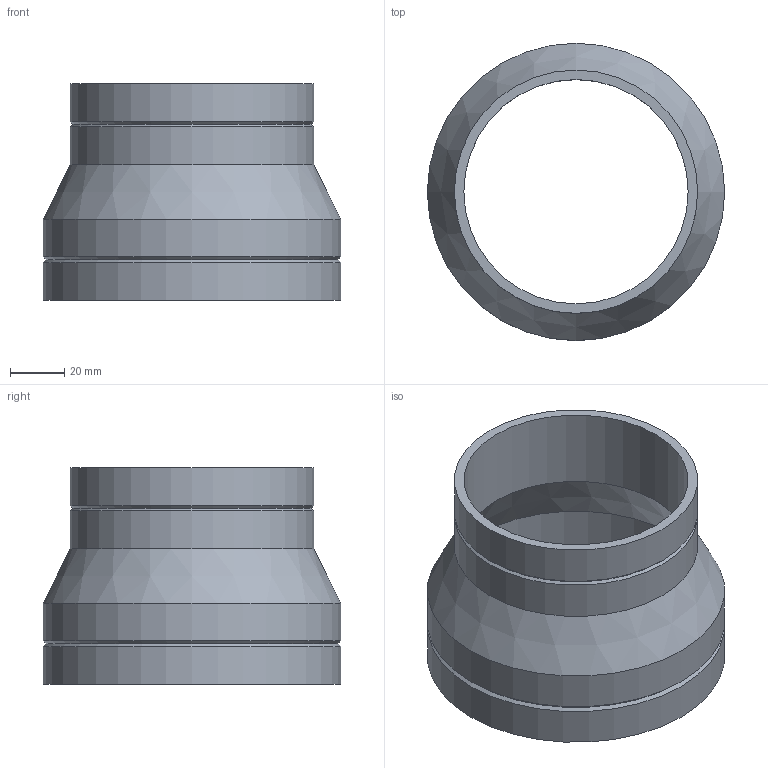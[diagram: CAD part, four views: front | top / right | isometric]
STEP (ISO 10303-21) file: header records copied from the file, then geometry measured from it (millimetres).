
FILE_DESCRIPTION(/* description */ (''),/* implementation_level */ '2;1');
FILE_NAME(/* name */ 'Z:\Geberit\Export\NewStep\367580.stp',/* time_stamp */ '2014-04-02T07:57:52+02:00',/* author */ ('nelson'),/* organization */ (''),/* preprocessor_version */ 'ST-DEVELOPER v15.2',/* originating_system */ 'Autodesk Inventor 2014',/* authorisation */ '');
FILE_SCHEMA (('AUTOMOTIVE_DESIGN { 1 0 10303 214 3 1 1 }'));
Length unit declared in the file: millimetre
Products named in the file (1): 367580
Bounding box: 110 x 110 x 80 mm (x, y, z)
Volume: 94356.4 mm3; surface area: 52517.1 mm2
Topology: 1 solids, 1 shells, 14 faces, 31 edges, 19 vertices
Faces by surface type: cone 6, cylinder 6, plane 2
Full cylindrical faces by diameter (mm): 83 x1, 90 x2, 101.4 x1, 110 x2
Entity records: 323 total; most frequent: DIRECTION 58, CARTESIAN_POINT 43, AXIS2_PLACEMENT_3D 29, EDGE_LOOP 28, ORIENTED_EDGE 28, FACE_BOUND 16, STYLED_ITEM 15, CIRCLE 14
